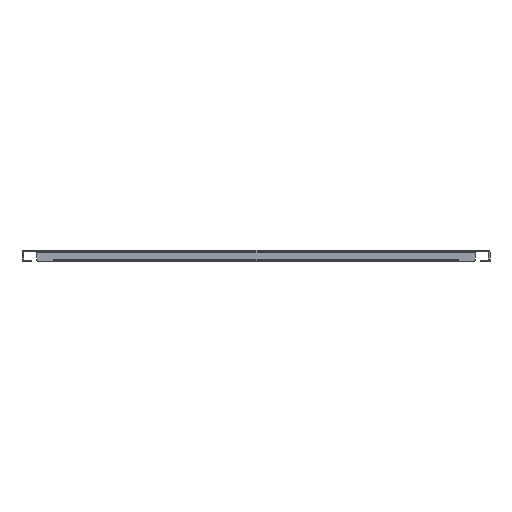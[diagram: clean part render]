
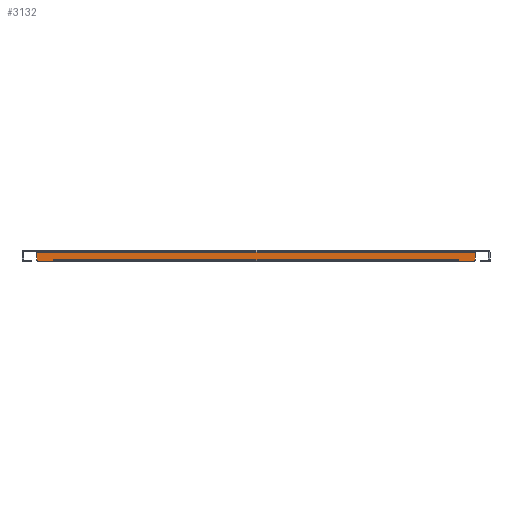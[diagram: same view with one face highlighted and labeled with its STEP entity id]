
A CAD part, front view. The second image highlights one B-rep face of the part: STEP entity #3132.
In plain terms, the highlighted planar face has unit normal (0, -1, 0).
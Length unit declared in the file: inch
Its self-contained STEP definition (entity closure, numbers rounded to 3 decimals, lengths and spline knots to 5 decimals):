
#82=PLANE('',#3407);
#200=FACE_OUTER_BOUND('',#390,.T.);
#390=EDGE_LOOP('',(#2467,#2468,#2469,#2470,#2471,#2472,#2473,#2474,#2475,
#2476,#2477,#2478,#2479,#2480));
#606=LINE('',#4836,#938);
#626=LINE('',#4904,#958);
#644=LINE('',#4965,#976);
#647=LINE('',#4970,#979);
#648=LINE('',#4974,#980);
#649=LINE('',#4976,#981);
#650=LINE('',#4978,#982);
#651=LINE('',#4980,#983);
#652=LINE('',#4982,#984);
#653=LINE('',#4984,#985);
#654=LINE('',#4986,#986);
#655=LINE('',#4987,#987);
#938=VECTOR('',#3897,0.3937);
#958=VECTOR('',#3951,0.3937);
#976=VECTOR('',#4001,0.3937);
#979=VECTOR('',#4006,0.3937);
#980=VECTOR('',#4009,0.3937);
#981=VECTOR('',#4010,0.3937);
#982=VECTOR('',#4011,0.3937);
#983=VECTOR('',#4012,0.3937);
#984=VECTOR('',#4013,0.3937);
#985=VECTOR('',#4014,0.3937);
#986=VECTOR('',#4015,0.3937);
#987=VECTOR('',#4016,0.3937);
#1233=CIRCLE('',#3405,0.125);
#1234=CIRCLE('',#3408,0.125);
#1409=VERTEX_POINT('',#4833);
#1410=VERTEX_POINT('',#4835);
#1440=VERTEX_POINT('',#4901);
#1441=VERTEX_POINT('',#4903);
#1467=VERTEX_POINT('',#4960);
#1468=VERTEX_POINT('',#4964);
#1470=VERTEX_POINT('',#4971);
#1471=VERTEX_POINT('',#4973);
#1472=VERTEX_POINT('',#4975);
#1473=VERTEX_POINT('',#4977);
#1474=VERTEX_POINT('',#4979);
#1475=VERTEX_POINT('',#4981);
#1476=VERTEX_POINT('',#4983);
#1477=VERTEX_POINT('',#4985);
#1772=EDGE_CURVE('',#1410,#1409,#606,.T.);
#1806=EDGE_CURVE('',#1441,#1440,#626,.T.);
#1835=EDGE_CURVE('',#1441,#1467,#1233,.T.);
#1837=EDGE_CURVE('',#1468,#1467,#644,.T.);
#1840=EDGE_CURVE('',#1410,#1440,#647,.T.);
#1841=EDGE_CURVE('',#1470,#1409,#1234,.T.);
#1842=EDGE_CURVE('',#1470,#1471,#648,.T.);
#1843=EDGE_CURVE('',#1471,#1472,#649,.T.);
#1844=EDGE_CURVE('',#1472,#1473,#650,.T.);
#1845=EDGE_CURVE('',#1473,#1474,#651,.T.);
#1846=EDGE_CURVE('',#1474,#1475,#652,.T.);
#1847=EDGE_CURVE('',#1475,#1476,#653,.T.);
#1848=EDGE_CURVE('',#1476,#1477,#654,.T.);
#1849=EDGE_CURVE('',#1477,#1468,#655,.T.);
#2467=ORIENTED_EDGE('',*,*,#1835,.F.);
#2468=ORIENTED_EDGE('',*,*,#1806,.T.);
#2469=ORIENTED_EDGE('',*,*,#1840,.F.);
#2470=ORIENTED_EDGE('',*,*,#1772,.T.);
#2471=ORIENTED_EDGE('',*,*,#1841,.F.);
#2472=ORIENTED_EDGE('',*,*,#1842,.T.);
#2473=ORIENTED_EDGE('',*,*,#1843,.T.);
#2474=ORIENTED_EDGE('',*,*,#1844,.T.);
#2475=ORIENTED_EDGE('',*,*,#1845,.T.);
#2476=ORIENTED_EDGE('',*,*,#1846,.T.);
#2477=ORIENTED_EDGE('',*,*,#1847,.T.);
#2478=ORIENTED_EDGE('',*,*,#1848,.T.);
#2479=ORIENTED_EDGE('',*,*,#1849,.T.);
#2480=ORIENTED_EDGE('',*,*,#1837,.T.);
#3132=ADVANCED_FACE('',(#200),#82,.F.);
#3405=AXIS2_PLACEMENT_3D('',#4961,#3996,#3997);
#3407=AXIS2_PLACEMENT_3D('',#4969,#4004,#4005);
#3408=AXIS2_PLACEMENT_3D('',#4972,#4007,#4008);
#3897=DIRECTION('',(0.,0.,-1.));
#3951=DIRECTION('',(0.,0.,1.));
#3996=DIRECTION('center_axis',(0.,1.,0.));
#3997=DIRECTION('ref_axis',(0.707,0.,-0.707));
#4001=DIRECTION('',(1.,0.,0.));
#4004=DIRECTION('center_axis',(0.,1.,0.));
#4005=DIRECTION('ref_axis',(0.,0.,1.));
#4006=DIRECTION('',(1.,0.,0.));
#4007=DIRECTION('center_axis',(0.,1.,0.));
#4008=DIRECTION('ref_axis',(-0.707,0.,-0.707));
#4009=DIRECTION('',(1.,0.,0.));
#4010=DIRECTION('',(0.,0.,1.));
#4011=DIRECTION('',(1.,0.,0.));
#4012=DIRECTION('',(0.,0.,-1.));
#4013=DIRECTION('',(1.,0.,0.));
#4014=DIRECTION('',(0.,0.,1.));
#4015=DIRECTION('',(1.,0.,0.));
#4016=DIRECTION('',(0.,0.,-1.));
#4833=CARTESIAN_POINT('',(-9.4375,-13.375,-0.319));
#4835=CARTESIAN_POINT('',(-9.4375,-13.375,-0.031));
#4836=CARTESIAN_POINT('',(-9.4375,-13.375,0.068));
#4901=CARTESIAN_POINT('',(9.4375,-13.375,-0.031));
#4903=CARTESIAN_POINT('',(9.4375,-13.375,-0.319));
#4904=CARTESIAN_POINT('',(9.4375,-13.375,-0.444));
#4960=CARTESIAN_POINT('',(9.3125,-13.375,-0.444));
#4961=CARTESIAN_POINT('Origin',(9.3125,-13.375,-0.319));
#4964=CARTESIAN_POINT('',(8.6877,-13.375,-0.444));
#4965=CARTESIAN_POINT('',(-9.4375,-13.375,-0.444));
#4969=CARTESIAN_POINT('Origin',(0.,-13.375,-0.188));
#4970=CARTESIAN_POINT('',(9.4375,-13.375,-0.031));
#4971=CARTESIAN_POINT('',(-9.3125,-13.375,-0.444));
#4972=CARTESIAN_POINT('Origin',(-9.3125,-13.375,-0.319));
#4973=CARTESIAN_POINT('',(-8.6877,-13.375,-0.444));
#4974=CARTESIAN_POINT('',(-9.4375,-13.375,-0.444));
#4975=CARTESIAN_POINT('',(-8.6877,-13.375,-0.3448));
#4976=CARTESIAN_POINT('',(-8.6877,-13.375,-0.316));
#4977=CARTESIAN_POINT('',(-8.6875,-13.375,-0.3448));
#4978=CARTESIAN_POINT('',(-4.34385,-13.375,-0.3448));
#4979=CARTESIAN_POINT('',(-8.6875,-13.375,-0.345));
#4980=CARTESIAN_POINT('',(-8.6875,-13.375,-0.2664));
#4981=CARTESIAN_POINT('',(8.6875,-13.375,-0.345));
#4982=CARTESIAN_POINT('',(4.34375,-13.375,-0.345));
#4983=CARTESIAN_POINT('',(8.6875,-13.375,-0.3448));
#4984=CARTESIAN_POINT('',(8.6875,-13.375,-0.316));
#4985=CARTESIAN_POINT('',(8.6877,-13.375,-0.3448));
#4986=CARTESIAN_POINT('',(4.34375,-13.375,-0.3448));
#4987=CARTESIAN_POINT('',(8.6877,-13.375,-0.2664));
